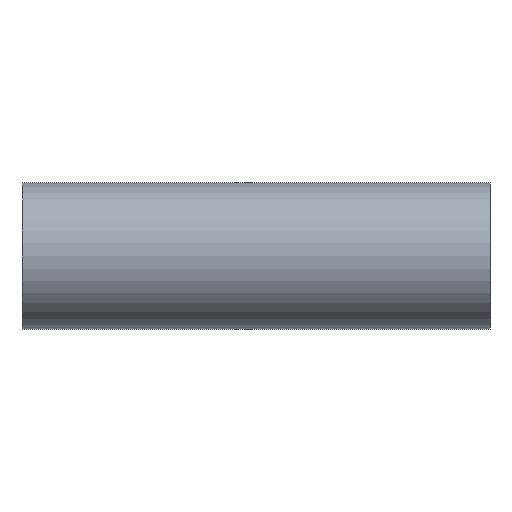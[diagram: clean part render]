
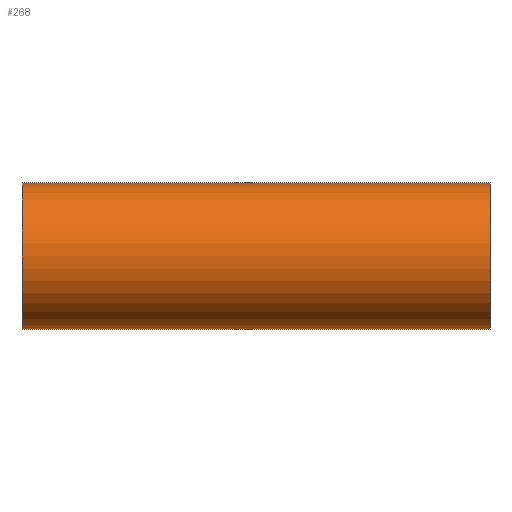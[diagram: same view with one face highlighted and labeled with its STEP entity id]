
A CAD part, front view. The second image highlights one B-rep face of the part: STEP entity #268.
In plain terms, the highlighted cylindrical face has radius 50.8 mm (diameter 101.6 mm), a partial arc.
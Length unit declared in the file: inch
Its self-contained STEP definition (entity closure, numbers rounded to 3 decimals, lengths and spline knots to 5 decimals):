
#3 = ORIENTED_EDGE ( 'NONE', *, *, #133, .T. ) ;
#15 = VERTEX_POINT ( 'NONE', #509 ) ;
#36 = DIRECTION ( 'NONE',  ( 0., 0., -1. ) ) ;
#55 = VERTEX_POINT ( 'NONE', #600 ) ;
#59 = VECTOR ( 'NONE', #354, 39.37008 ) ;
#65 = DIRECTION ( 'NONE',  ( 0., 0., -1. ) ) ;
#84 = CARTESIAN_POINT ( 'NONE',  ( -2.062, 0., 0. ) ) ;
#89 = CARTESIAN_POINT ( 'NONE',  ( 10.75, 0., -2. ) ) ;
#105 = ORIENTED_EDGE ( 'NONE', *, *, #478, .F. ) ;
#132 = CYLINDRICAL_SURFACE ( 'NONE', #390, 2. ) ;
#133 = EDGE_CURVE ( 'NONE', #412, #55, #497, .T. ) ;
#140 = CARTESIAN_POINT ( 'NONE',  ( -2.062, 0., 2. ) ) ;
#164 = ORIENTED_EDGE ( 'NONE', *, *, #427, .F. ) ;
#168 = VERTEX_POINT ( 'NONE', #89 ) ;
#216 = CARTESIAN_POINT ( 'NONE',  ( -2.062, 0., 0. ) ) ;
#221 = AXIS2_PLACEMENT_3D ( 'NONE', #216, #413, #65 ) ;
#250 = VECTOR ( 'NONE', #646, 39.37008 ) ;
#258 = CARTESIAN_POINT ( 'NONE',  ( -2.062, 0., -2. ) ) ;
#268 = ADVANCED_FACE ( 'NONE', ( #588 ), #132, .T. ) ;
#335 = AXIS2_PLACEMENT_3D ( 'NONE', #449, #495, #339 ) ;
#337 = LINE ( 'NONE', #550, #250 ) ;
#339 = DIRECTION ( 'NONE',  ( 0., 0., -1. ) ) ;
#354 = DIRECTION ( 'NONE',  ( 1., 0., 0. ) ) ;
#390 = AXIS2_PLACEMENT_3D ( 'NONE', #84, #489, #36 ) ;
#412 = VERTEX_POINT ( 'NONE', #140 ) ;
#413 = DIRECTION ( 'NONE',  ( 1., 0., 0. ) ) ;
#427 = EDGE_CURVE ( 'NONE', #15, #168, #595, .T. ) ;
#449 = CARTESIAN_POINT ( 'NONE',  ( 10.75, 0., 0. ) ) ;
#467 = EDGE_LOOP ( 'NONE', ( #105, #3, #475, #164 ) ) ;
#475 = ORIENTED_EDGE ( 'NONE', *, *, #575, .T. ) ;
#478 = EDGE_CURVE ( 'NONE', #412, #15, #337, .T. ) ;
#489 = DIRECTION ( 'NONE',  ( 1., 0., 0. ) ) ;
#495 = DIRECTION ( 'NONE',  ( 1., 0., 0. ) ) ;
#497 = CIRCLE ( 'NONE', #221, 2. ) ;
#509 = CARTESIAN_POINT ( 'NONE',  ( 10.75, 0., 2. ) ) ;
#518 = LINE ( 'NONE', #258, #59 ) ;
#550 = CARTESIAN_POINT ( 'NONE',  ( -2.062, 0., 2. ) ) ;
#575 = EDGE_CURVE ( 'NONE', #55, #168, #518, .T. ) ;
#588 = FACE_OUTER_BOUND ( 'NONE', #467, .T. ) ;
#595 = CIRCLE ( 'NONE', #335, 2. ) ;
#600 = CARTESIAN_POINT ( 'NONE',  ( -2.062, 0., -2. ) ) ;
#646 = DIRECTION ( 'NONE',  ( 1., 0., 0. ) ) ;
